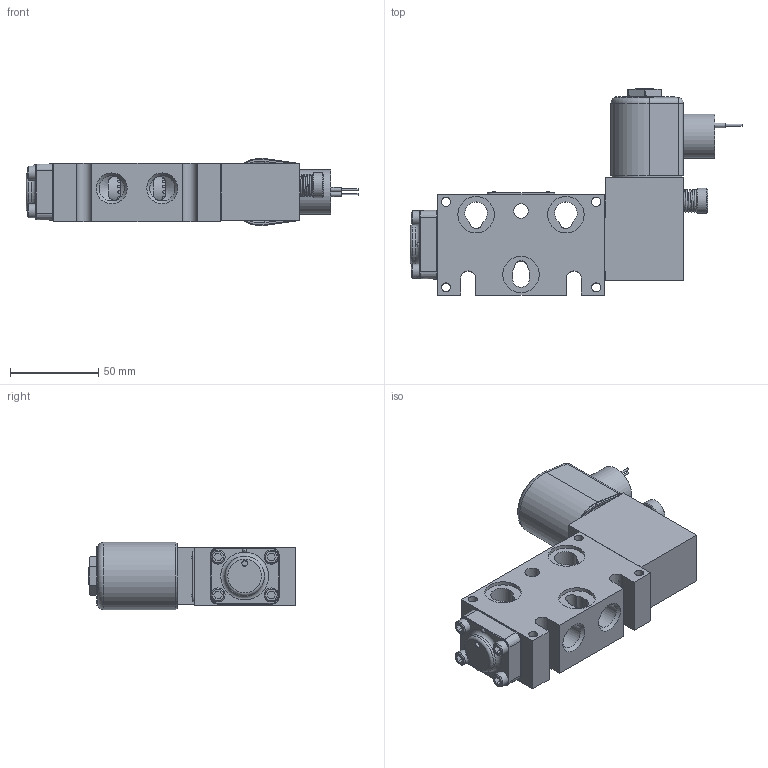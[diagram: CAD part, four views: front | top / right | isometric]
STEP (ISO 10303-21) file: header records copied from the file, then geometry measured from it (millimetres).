
FILE_DESCRIPTION(/* description */ (''),/* implementation_level */ '2;1');
FILE_NAME(/* name */ 'D:\Website New\Valves\Classic\SO\stp\BSO3OT.stp',/* time_stamp */ '2020-01-02T09:45:58-05:00',/* author */ ('RMcKenna'),/* organization */ (''),/* preprocessor_version */ 'ST-DEVELOPER v17',/* originating_system */ 'Autodesk Inventor 2018',/* authorisation */ '');
FILE_SCHEMA (('AUTOMOTIVE_DESIGN { 1 0 10303 214 3 1 1 }'));
Length unit declared in the file: centimetre
Products named in the file (1): Part14
Bounding box: 187.8 x 116.74 x 38.08 mm (x, y, z)
Volume: 270418.9 mm3; surface area: 105288.8 mm2
Topology: 3 solids, 29 shells, 1272 faces, 3101 edges, 2005 vertices
Faces by surface type: plane 551, cylinder 290, cone 243, torus 119, bspline 62, sphere 7
Full cylindrical faces by diameter (mm): 1.168 x2, 1.727 x3, 2.07 x2, 2.261 x2, 2.35 x1, 2.381 x1, 2.54 x2, 2.778 x7, 3.048 x3, 3.175 x4, 3.302 x1, 3.683 x8, 3.962 x1, 4.366 x2, 4.826 x12, 5.156 x12, 5.556 x4, 6.629 x2, 7.938 x8, 7.95 x2, 8.153 x1, 8.334 x1, 8.731 x4, 9.144 x1, 9.474 x4, 9.525 x1, 9.83 x1, 9.922 x1, 11.303 x2, 11.328 x1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
Entity records: 42792 total; most frequent: CARTESIAN_POINT 11839, DIRECTION 6262, ORIENTED_EDGE 6154, EDGE_CURVE 3077, AXIS2_PLACEMENT_3D 2425, VERTEX_POINT 2005, EDGE_LOOP 1480, LINE 1412
